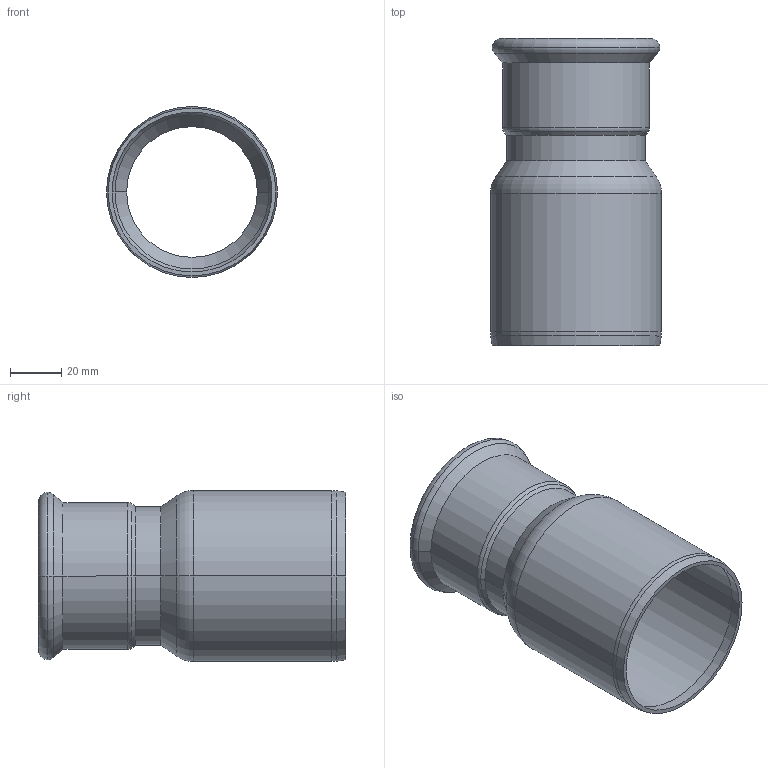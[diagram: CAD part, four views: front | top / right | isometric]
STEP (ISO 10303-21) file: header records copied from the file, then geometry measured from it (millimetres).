
FILE_DESCRIPTION(('CoCreate Modeling STEP Export'),'2;1');
FILE_NAME('C1407 67x54.stp','2014-10-23T15:46:44',(''),(''),'CoCreate Modeling STEP processor for AP214 (Solid Model)','CoCreate Modeling 17.00A 17-Jun-2010 (C) Parametric Technology GmbH','');
FILE_SCHEMA(('AUTOMOTIVE_DESIGN { 1 0 10303 214 1 1 1 1 }'));
Length unit declared in the file: millimetre
Products named in the file (1): Reducer_67x54mm
Bounding box: 66.7 x 120.02 x 66.7 mm (x, y, z)
Volume: 39499.4 mm3; surface area: 48230.5 mm2
Topology: 1 solids, 1 shells, 56 faces, 112 edges, 58 vertices
Faces by surface type: cone 20, torus 18, cylinder 16, plane 2
Entity records: 1173 total; most frequent: ORIENTED_EDGE 224, DIRECTION 188, CARTESIAN_POINT 170, EDGE_CURVE 112, AXIS2_PLACEMENT_3D 76, VERTEX_POINT 58, EDGE_LOOP 58, FACE_OUTER_BOUND 56
